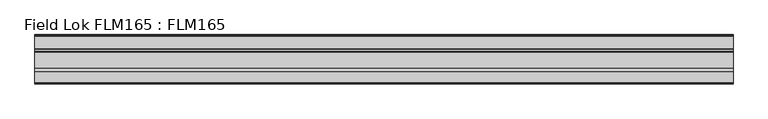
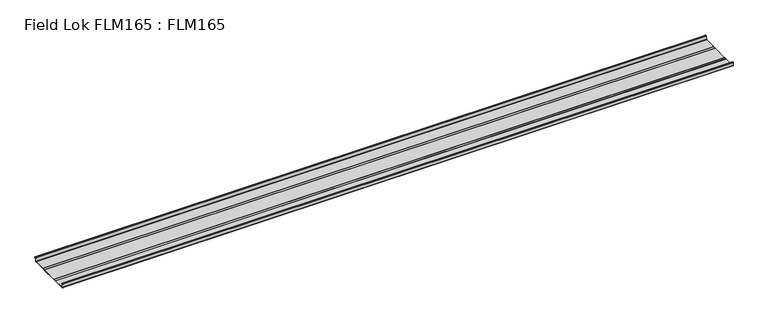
"""IFC4 building model written with IfcOpenShell, lengths in millimetres: proxy geometry, Field Lok FLM165 : FLM165."""

from ifc_helpers import new_model, si_unit, point, frame, frame_2d, origin, place, context, project, spatial, polyline, circle_curve, trimmed, segment, composite_curve, outline, extrude, source, transform, mapped, element, save


def field_lok_flm165_flm165_75423626(model_context):
    return source(origin(), model_context, "Body", "SweptSolid", [
        extrude(outline(composite_curve([segment(polyline([(-3.8410185, 40.1136955), (-3.8410185, 39.3008955), (-10.1497435, 39.3008955)]), True, "CONTINUOUS"), segment(trimmed(circle_curve(frame_2d((-10.1497435, 37.2942955)), 2.0066), [point((-10.1497435, 39.3008955))], [point((-12.1563435, 37.2942955))], True, "CARTESIAN"), True, "CONTINUOUS"), segment(polyline([(-12.1563435, 37.2942955), (-12.1563435, 7.6016955)]), True, "CONTINUOUS"), segment(trimmed(circle_curve(frame_2d((-7.3811435, 7.6016955)), 4.7752), [point((-12.1563435, 7.6016955))], [point((-7.3811435, 2.8264955))], True, "CARTESIAN"), True, "CONTINUOUS"), segment(polyline([(-7.3811435, 2.8264955), (97.9120433, 2.8264955), (99.0003456, 3.588533)]), True, "CONTINUOUS"), segment(trimmed(circle_curve(frame_2d((99.7433565, 2.5274034)), 1.2954), [point((99.0003456, 3.588533))], [point((99.7433565, 3.8228034))], False, "CARTESIAN"), True, "CONTINUOUS"), segment(polyline([(99.7433565, 3.8228034), (122.0953565, 3.8228034)]), True, "CONTINUOUS"), segment(trimmed(circle_curve(frame_2d((122.0953565, 2.5274034)), 1.2954), [point((122.0953565, 3.8228034))], [point((122.8383674, 3.588533))], False, "CARTESIAN"), True, "CONTINUOUS"), segment(polyline([(122.8383674, 3.588533), (123.9266697, 2.8264955), (269.2350433, 2.8264955), (270.3233456, 3.588533)]), True, "CONTINUOUS"), segment(trimmed(circle_curve(frame_2d((271.0663565, 2.5274034)), 1.2954), [point((270.3233456, 3.588533))], [point((271.0663565, 3.8228034))], False, "CARTESIAN"), True, "CONTINUOUS"), segment(polyline([(271.0663565, 3.8228034), (293.4183565, 3.8228034)]), True, "CONTINUOUS"), segment(trimmed(circle_curve(frame_2d((293.4183565, 2.5274034)), 1.2954), [point((293.4183565, 3.8228034))], [point((294.1613674, 3.588533))], False, "CARTESIAN"), True, "CONTINUOUS"), segment(polyline([(294.1613674, 3.588533), (295.2496697, 2.8264955), (402.3231775, 2.8264955)]), True, "CONTINUOUS"), segment(trimmed(circle_curve(frame_2d((402.3231775, 5.8236955)), 2.9972), [point((402.3231775, 2.8264955))], [point((405.3185516, 5.7190947))], True, "CARTESIAN"), True, "CONTINUOUS"), segment(polyline([(405.3185516, 5.7190947), (406.4523364, 38.1864411)]), True, "CONTINUOUS"), segment(trimmed(circle_curve(frame_2d((409.2700189, 38.0880455)), 2.8194), [point((406.4523364, 38.1864411))], [point((409.2700189, 40.9074455))], False, "CARTESIAN"), True, "CONTINUOUS"), segment(polyline([(409.2700189, 40.9074455), (416.7298114, 40.9074455)]), True, "CONTINUOUS"), segment(trimmed(circle_curve(frame_2d((416.7298114, 38.0880455)), 2.8194), [point((416.7298114, 40.9074455))], [point((419.5492114, 38.0880455))], False, "CARTESIAN"), True, "CONTINUOUS"), segment(polyline([(419.5492114, 38.0880455), (419.5492114, 30.9855705), (418.7364114, 30.9855705), (418.7364114, 38.0880455)]), True, "CONTINUOUS"), segment(trimmed(circle_curve(frame_2d((416.7298114, 38.0880455)), 2.0066), [point((418.7364114, 38.0880455))], [point((416.7298114, 40.0946455))], True, "CARTESIAN"), True, "CONTINUOUS"), segment(polyline([(416.7298114, 40.0946455), (409.2700189, 40.0946455)]), True, "CONTINUOUS"), segment(trimmed(circle_curve(frame_2d((409.2700189, 38.0880455)), 2.0066), [point((409.2700189, 40.0946455))], [point((407.2646412, 38.1580748))], True, "CARTESIAN"), True, "CONTINUOUS"), segment(polyline([(407.2646412, 38.1580748), (406.1308565, 5.6907284)]), True, "CONTINUOUS"), segment(trimmed(circle_curve(frame_2d((402.3231775, 5.8236955)), 3.81), [point((406.1308565, 5.6907284))], [point((402.3231775, 2.0136955))], False, "CARTESIAN"), True, "CONTINUOUS"), segment(polyline([(402.3231775, 2.0136955), (295.4098415, 2.0136955)]), True, "CONTINUOUS"), segment(trimmed(circle_curve(frame_2d((295.4098415, 3.3344955)), 1.3208), [point((295.4098415, 2.0136955))], [point((294.6522617, 2.2525595))], False, "CARTESIAN"), True, "CONTINUOUS"), segment(polyline([(294.6522617, 2.2525595), (293.5705197, 3.0100034), (270.9141933, 3.0100034), (269.8324513, 2.2525595)]), True, "CONTINUOUS"), segment(trimmed(circle_curve(frame_2d((269.0748715, 3.3344955)), 1.3208), [point((269.8324513, 2.2525595))], [point((269.0748715, 2.0136955))], False, "CARTESIAN"), True, "CONTINUOUS"), segment(polyline([(269.0748715, 2.0136955), (124.0868415, 2.0136955)]), True, "CONTINUOUS"), segment(trimmed(circle_curve(frame_2d((124.0868415, 3.3344955)), 1.3208), [point((124.0868415, 2.0136955))], [point((123.3292617, 2.2525595))], False, "CARTESIAN"), True, "CONTINUOUS"), segment(polyline([(123.3292617, 2.2525595), (122.2475197, 3.0100034), (99.5911933, 3.0100034), (98.5094513, 2.2525595)]), True, "CONTINUOUS"), segment(trimmed(circle_curve(frame_2d((97.7518715, 3.3344955)), 1.3208), [point((98.5094513, 2.2525595))], [point((97.7518715, 2.0136955))], False, "CARTESIAN"), True, "CONTINUOUS"), segment(polyline([(97.7518715, 2.0136955), (-7.3811435, 2.0136955)]), True, "CONTINUOUS"), segment(trimmed(circle_curve(frame_2d((-7.3811435, 7.6016955)), 5.588), [point((-7.3811435, 2.0136955))], [point((-12.9691435, 7.6016955))], False, "CARTESIAN"), True, "CONTINUOUS"), segment(polyline([(-12.9691435, 7.6016955), (-12.9691435, 37.2942955)]), True, "CONTINUOUS"), segment(trimmed(circle_curve(frame_2d((-10.1497435, 37.2942955)), 2.8194), [point((-12.9691435, 37.2942955))], [point((-10.1497435, 40.1136955))], False, "CARTESIAN"), True, "CONTINUOUS"), segment(polyline([(-10.1497435, 40.1136955), (-3.8410185, 40.1136955)]), True, "CONTINUOUS")], self_intersect=False)), frame((-3140.195459, 0.0, 0.0), z_axis=(1.0, 0.0, 0.0), x_axis=(0.0, 1.0, 0.0)), (0.0, 0.0, 1.0), 6096.0),
    ])


if __name__ == "__main__":
    model = new_model("IFC4")
    model_context = context("Model", 3, world=origin())
    ifc_project = project(units=[si_unit("LENGTHUNIT", "METRE", prefix="MILLI")], contexts=[model_context])
    site = spatial("IfcSite", under=ifc_project)
    building = spatial("IfcBuilding", under=site)
    placement = place(None, origin())
    field_lok_flm165_flm165_shape = field_lok_flm165_flm165_75423626(model_context)
    element("IfcBuildingElementProxy", 1, Name="Field Lok FLM165 : FLM165", ObjectType="Field Lok FLM165 : FLM165", at=placement, inside=building, context=model_context, shape_type="MappedRepresentation", body=[
        mapped(field_lok_flm165_flm165_shape, transform((0.0, 0.0, 0.0), x_axis=(1.0, 0.0, 0.0), y_axis=(0.0, 1.0, 0.0), z_axis=(0.0, 0.0, 1.0))),
    ])
    save(model, "model.ifc")
